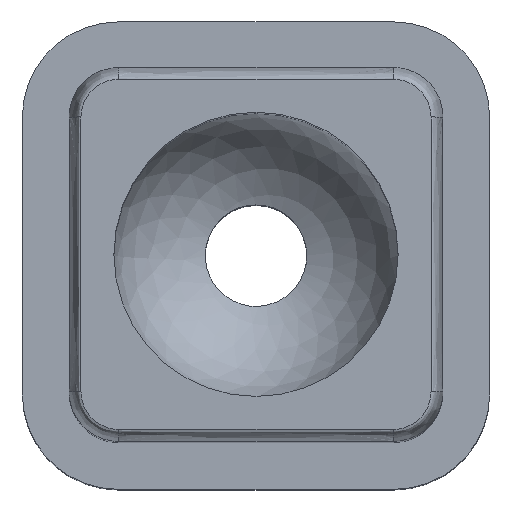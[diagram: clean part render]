
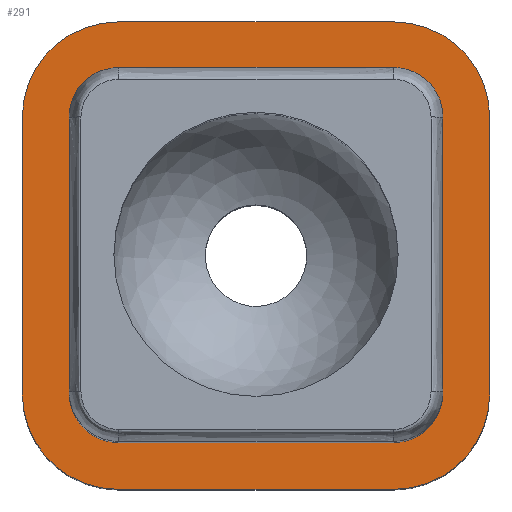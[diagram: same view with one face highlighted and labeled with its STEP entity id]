
A CAD part, top view. The second image highlights one B-rep face of the part: STEP entity #291.
In plain terms, the highlighted planar face has unit normal (0, 0, 1).
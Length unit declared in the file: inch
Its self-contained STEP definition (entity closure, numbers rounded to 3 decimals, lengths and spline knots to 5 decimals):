
#15 = EDGE_CURVE ( 'NONE', #1404, #809, #696, .T. ) ;
#22 = VERTEX_POINT ( 'NONE', #1131 ) ;
#42 = EDGE_CURVE ( 'NONE', #1053, #1121, #76, .T. ) ;
#62 = EDGE_CURVE ( 'NONE', #765, #1058, #652, .T. ) ;
#76 = CIRCLE ( 'NONE', #1484, 0.25 ) ;
#80 = CARTESIAN_POINT ( 'NONE',  ( 0.925, 0.2, 0. ) ) ;
#92 = DIRECTION ( 'NONE',  ( 0., 0., 1. ) ) ;
#97 = CARTESIAN_POINT ( 'NONE',  ( 1.0525, 0.2025, 0. ) ) ;
#118 = EDGE_CURVE ( 'NONE', #22, #894, #617, .T. ) ;
#130 = DIRECTION ( 'NONE',  ( -1., 0., 0. ) ) ;
#131 = EDGE_CURVE ( 'NONE', #22, #1092, #629, .T. ) ;
#143 = EDGE_CURVE ( 'NONE', #1211, #1092, #613, .T. ) ;
#146 = EDGE_CURVE ( 'NONE', #1211, #1457, #593, .T. ) ;
#164 = CARTESIAN_POINT ( 'NONE',  ( 0.925, -0.05, 0. ) ) ;
#170 = EDGE_CURVE ( 'NONE', #174, #1457, #596, .T. ) ;
#174 = VERTEX_POINT ( 'NONE', #498 ) ;
#179 = EDGE_CURVE ( 'NONE', #174, #458, #555, .T. ) ;
#202 = EDGE_CURVE ( 'NONE', #1498, #458, #568, .T. ) ;
#217 = EDGE_CURVE ( 'NONE', #1498, #894, #551, .T. ) ;
#228 = EDGE_CURVE ( 'NONE', #1404, #1028, #591, .T. ) ;
#241 = EDGE_CURVE ( 'NONE', #765, #809, #545, .T. ) ;
#273 = EDGE_CURVE ( 'NONE', #1053, #1058, #525, .T. ) ;
#291 = ADVANCED_FACE ( 'NONE', ( #572, #524 ), #641, .T. ) ;
#294 = EDGE_CURVE ( 'NONE', #1042, #1121, #493, .T. ) ;
#332 = CARTESIAN_POINT ( 'NONE',  ( 0., 0.0725, 0. ) ) ;
#340 = DIRECTION ( 'NONE',  ( -1., 0., 0. ) ) ;
#344 = CARTESIAN_POINT ( 'NONE',  ( 0.9225, 0.2025, 0. ) ) ;
#347 = DIRECTION ( 'NONE',  ( 0., 0., 1. ) ) ;
#352 = DIRECTION ( 'NONE',  ( 1., 0., 0. ) ) ;
#370 = DIRECTION ( 'NONE',  ( 0., 1., 0. ) ) ;
#381 = CARTESIAN_POINT ( 'NONE',  ( 0.0725, 0., 0. ) ) ;
#393 = CARTESIAN_POINT ( 'NONE',  ( 0.2025, 0.2025, 0. ) ) ;
#398 = CARTESIAN_POINT ( 'NONE',  ( 0., 1.0525, 0. ) ) ;
#410 = CARTESIAN_POINT ( 'NONE',  ( 0.2025, 0.9225, 0. ) ) ;
#412 = DIRECTION ( 'NONE',  ( 0., 0., 1. ) ) ;
#421 = DIRECTION ( 'NONE',  ( 1., 0., 0. ) ) ;
#435 = ORIENTED_EDGE ( 'NONE', *, *, #1609, .T. ) ;
#436 = DIRECTION ( 'NONE',  ( 1., 0., 0. ) ) ;
#458 = VERTEX_POINT ( 'NONE', #1467 ) ;
#470 = DIRECTION ( 'NONE',  ( 0., -1., 0. ) ) ;
#478 = CARTESIAN_POINT ( 'NONE',  ( 0.925, -0.05, 0. ) ) ;
#481 = CARTESIAN_POINT ( 'NONE',  ( 1.0525, 0., 0. ) ) ;
#486 = CARTESIAN_POINT ( 'NONE',  ( 0.9225, 0.9225, 0. ) ) ;
#493 = LINE ( 'NONE', #663, #521 ) ;
#494 = CARTESIAN_POINT ( 'NONE',  ( 1.175, 0.2, 0. ) ) ;
#498 = CARTESIAN_POINT ( 'NONE',  ( 0.2025, 1.0525, 0. ) ) ;
#500 = CARTESIAN_POINT ( 'NONE',  ( -0.05, 0.925, 0. ) ) ;
#502 = CARTESIAN_POINT ( 'NONE',  ( 0.2025, 0.0725, 0. ) ) ;
#503 = DIRECTION ( 'NONE',  ( 1., 0., 0. ) ) ;
#505 = DIRECTION ( 'NONE',  ( 0., 0., 1. ) ) ;
#508 = CARTESIAN_POINT ( 'NONE',  ( 0.2, 1.175, 0. ) ) ;
#515 = DIRECTION ( 'NONE',  ( 1., 0., 0. ) ) ;
#518 = VECTOR ( 'NONE', #621, 39.37008 ) ;
#521 = VECTOR ( 'NONE', #503, 39.37008 ) ;
#523 = CARTESIAN_POINT ( 'NONE',  ( 1.175, 0.925, 0. ) ) ;
#524 = FACE_OUTER_BOUND ( 'NONE', #1257, .T. ) ;
#525 = LINE ( 'NONE', #585, #518 ) ;
#526 = CARTESIAN_POINT ( 'NONE',  ( 0.0725, 0.2025, 0. ) ) ;
#529 = VECTOR ( 'NONE', #546, 39.37008 ) ;
#531 = CARTESIAN_POINT ( 'NONE',  ( -0.05, 0.2, 0. ) ) ;
#542 = VECTOR ( 'NONE', #582, 39.37008 ) ;
#545 = LINE ( 'NONE', #478, #542 ) ;
#546 = DIRECTION ( 'NONE',  ( 0., 1., 0. ) ) ;
#547 = VECTOR ( 'NONE', #470, 39.37008 ) ;
#551 = LINE ( 'NONE', #481, #547 ) ;
#553 = VECTOR ( 'NONE', #436, 39.37008 ) ;
#555 = LINE ( 'NONE', #398, #553 ) ;
#558 = CARTESIAN_POINT ( 'NONE',  ( 0.925, 1.175, 0. ) ) ;
#568 = CIRCLE ( 'NONE', #1423, 0.13 ) ;
#572 = FACE_BOUND ( 'NONE', #1293, .T. ) ;
#575 = VECTOR ( 'NONE', #370, 39.37008 ) ;
#582 = DIRECTION ( 'NONE',  ( -1., 0., 0. ) ) ;
#585 = CARTESIAN_POINT ( 'NONE',  ( 1.175, 0.2, 0. ) ) ;
#590 = ORIENTED_EDGE ( 'NONE', *, *, #294, .F. ) ;
#591 = LINE ( 'NONE', #531, #529 ) ;
#593 = LINE ( 'NONE', #381, #575 ) ;
#595 = VECTOR ( 'NONE', #340, 39.37008 ) ;
#596 = CIRCLE ( 'NONE', #1433, 0.13 ) ;
#613 = CIRCLE ( 'NONE', #1437, 0.13 ) ;
#617 = CIRCLE ( 'NONE', #1447, 0.13 ) ;
#620 = CARTESIAN_POINT ( 'NONE',  ( -0.05, 0.2, 0. ) ) ;
#621 = DIRECTION ( 'NONE',  ( 0., -1., 0. ) ) ;
#629 = LINE ( 'NONE', #332, #595 ) ;
#638 = CARTESIAN_POINT ( 'NONE',  ( 0., 0., 0. ) ) ;
#641 = PLANE ( 'NONE',  #1407 ) ;
#644 = DIRECTION ( 'NONE',  ( 0., 0., 1. ) ) ;
#646 = DIRECTION ( 'NONE',  ( 1., 0., 0. ) ) ;
#652 = CIRCLE ( 'NONE', #1461, 0.25 ) ;
#662 = CARTESIAN_POINT ( 'NONE',  ( 0.0725, 0.9225, 0. ) ) ;
#663 = CARTESIAN_POINT ( 'NONE',  ( 0.925, 1.175, 0. ) ) ;
#676 = CARTESIAN_POINT ( 'NONE',  ( 1.0525, 0.9225, 0. ) ) ;
#696 = CIRCLE ( 'NONE', #1492, 0.25 ) ;
#765 = VERTEX_POINT ( 'NONE', #164 ) ;
#767 = DIRECTION ( 'NONE',  ( 1., 0., 0. ) ) ;
#784 = DIRECTION ( 'NONE',  ( 0., 0., 1. ) ) ;
#800 = ORIENTED_EDGE ( 'NONE', *, *, #42, .T. ) ;
#809 = VERTEX_POINT ( 'NONE', #1622 ) ;
#816 = ORIENTED_EDGE ( 'NONE', *, *, #273, .F. ) ;
#873 = CARTESIAN_POINT ( 'NONE',  ( 0.2, 0.925, 0. ) ) ;
#874 = DIRECTION ( 'NONE',  ( 0., 0., 1. ) ) ;
#879 = DIRECTION ( 'NONE',  ( -1., 0., 0. ) ) ;
#894 = VERTEX_POINT ( 'NONE', #97 ) ;
#985 = ORIENTED_EDGE ( 'NONE', *, *, #62, .T. ) ;
#1028 = VERTEX_POINT ( 'NONE', #500 ) ;
#1042 = VERTEX_POINT ( 'NONE', #508 ) ;
#1053 = VERTEX_POINT ( 'NONE', #523 ) ;
#1058 = VERTEX_POINT ( 'NONE', #494 ) ;
#1092 = VERTEX_POINT ( 'NONE', #502 ) ;
#1095 = ORIENTED_EDGE ( 'NONE', *, *, #241, .F. ) ;
#1097 = ORIENTED_EDGE ( 'NONE', *, *, #179, .T. ) ;
#1121 = VERTEX_POINT ( 'NONE', #558 ) ;
#1131 = CARTESIAN_POINT ( 'NONE',  ( 0.9225, 0.0725, 0. ) ) ;
#1134 = CARTESIAN_POINT ( 'NONE',  ( 0.2, 0.2, 0. ) ) ;
#1137 = DIRECTION ( 'NONE',  ( 0., 0., 1. ) ) ;
#1211 = VERTEX_POINT ( 'NONE', #526 ) ;
#1224 = ORIENTED_EDGE ( 'NONE', *, *, #15, .T. ) ;
#1257 = EDGE_LOOP ( 'NONE', ( #1313, #1224, #1095, #985, #816, #800, #590, #435 ) ) ;
#1293 = EDGE_LOOP ( 'NONE', ( #1483, #1474, #1418, #1398, #1333, #1097, #1462, #1376 ) ) ;
#1313 = ORIENTED_EDGE ( 'NONE', *, *, #228, .F. ) ;
#1333 = ORIENTED_EDGE ( 'NONE', *, *, #170, .F. ) ;
#1350 = DIRECTION ( 'NONE',  ( -1., 0., 0. ) ) ;
#1376 = ORIENTED_EDGE ( 'NONE', *, *, #217, .T. ) ;
#1398 = ORIENTED_EDGE ( 'NONE', *, *, #146, .T. ) ;
#1404 = VERTEX_POINT ( 'NONE', #620 ) ;
#1406 = CARTESIAN_POINT ( 'NONE',  ( 0.925, 0.925, 0. ) ) ;
#1407 = AXIS2_PLACEMENT_3D ( 'NONE', #638, #644, #646 ) ;
#1418 = ORIENTED_EDGE ( 'NONE', *, *, #143, .F. ) ;
#1423 = AXIS2_PLACEMENT_3D ( 'NONE', #486, #505, #515 ) ;
#1426 = DIRECTION ( 'NONE',  ( 0., 0., 1. ) ) ;
#1433 = AXIS2_PLACEMENT_3D ( 'NONE', #410, #412, #421 ) ;
#1437 = AXIS2_PLACEMENT_3D ( 'NONE', #393, #784, #767 ) ;
#1444 = DIRECTION ( 'NONE',  ( -1., 0., 0. ) ) ;
#1447 = AXIS2_PLACEMENT_3D ( 'NONE', #344, #347, #352 ) ;
#1457 = VERTEX_POINT ( 'NONE', #662 ) ;
#1461 = AXIS2_PLACEMENT_3D ( 'NONE', #80, #92, #130 ) ;
#1462 = ORIENTED_EDGE ( 'NONE', *, *, #202, .F. ) ;
#1467 = CARTESIAN_POINT ( 'NONE',  ( 0.9225, 1.0525, 0. ) ) ;
#1474 = ORIENTED_EDGE ( 'NONE', *, *, #131, .T. ) ;
#1483 = ORIENTED_EDGE ( 'NONE', *, *, #118, .F. ) ;
#1484 = AXIS2_PLACEMENT_3D ( 'NONE', #1406, #1426, #1444 ) ;
#1492 = AXIS2_PLACEMENT_3D ( 'NONE', #1134, #1137, #1350 ) ;
#1498 = VERTEX_POINT ( 'NONE', #676 ) ;
#1554 = AXIS2_PLACEMENT_3D ( 'NONE', #873, #874, #879 ) ;
#1609 = EDGE_CURVE ( 'NONE', #1042, #1028, #1610, .T. ) ;
#1610 = CIRCLE ( 'NONE', #1554, 0.25 ) ;
#1622 = CARTESIAN_POINT ( 'NONE',  ( 0.2, -0.05, 0. ) ) ;
